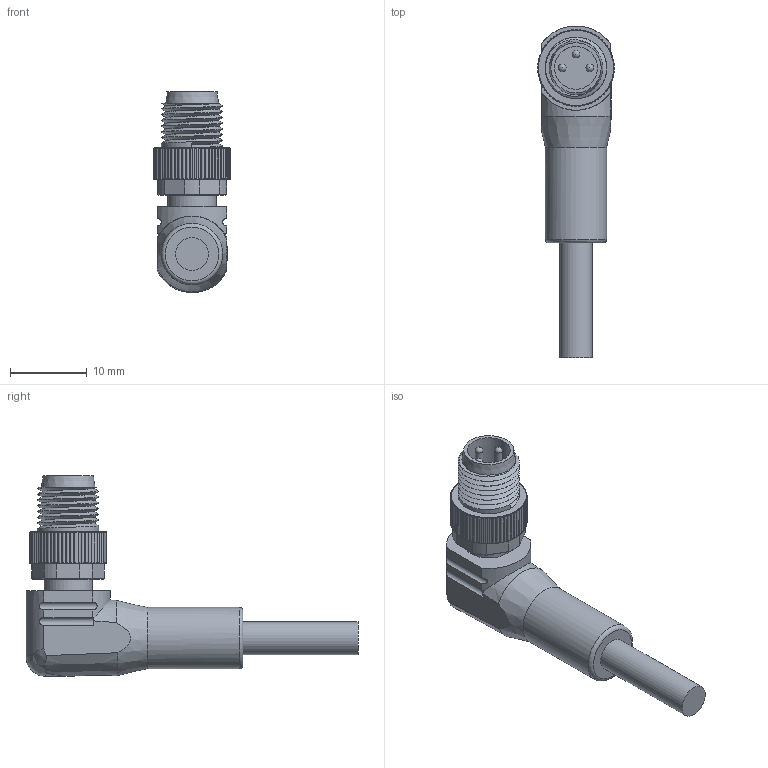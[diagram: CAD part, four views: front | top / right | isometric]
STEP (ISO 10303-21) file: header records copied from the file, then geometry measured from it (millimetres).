
FILE_DESCRIPTION(/* description */ (''),/* implementation_level */ '2;1');
FILE_NAME(/* name */ 'M8-3MR-L.stp',/* time_stamp */ '2023-11-15T15:48:18+08:00',/* author */ (''),/* organization */ (''),/* preprocessor_version */ 'ST-DEVELOPER v16.7',/* originating_system */ 'SIEMENS PLM Software NX 12.0',/* authorisation */ '');
FILE_SCHEMA (('AP203_CONFIGURATION_CONTROLLED_3D_DESIGN_OF_MECHANICAL_PARTS_AND_ASSEMBLIES_MIM_LF { 1 0 10303 403 2 1 2}'));
Length unit declared in the file: millimetre
Products named in the file (1): Admi5814E3A656xi
Bounding box: 10 x 43.3 x 26.2 mm (x, y, z)
Volume: 2725.5 mm3; surface area: 2427.5 mm2
Topology: 1 solids, 1 shells, 397 faces, 882 edges, 504 vertices
Faces by surface type: cylinder 149, cone 131, plane 93, extrusion 16, bspline 4, sphere 3, torus 1
Full cylindrical faces by diameter (mm): 1 x3, 4.3 x1, 5.6 x1, 6.3 x1, 6.5 x1, 8 x1
Entity records: 15948 total; most frequent: CARTESIAN_POINT 7478, DIRECTION 1730, ORIENTED_EDGE 1712, EDGE_CURVE 856, AXIS2_PLACEMENT_3D 680, VERTEX_POINT 493, EDGE_LOOP 429, ADVANCED_FACE 397
